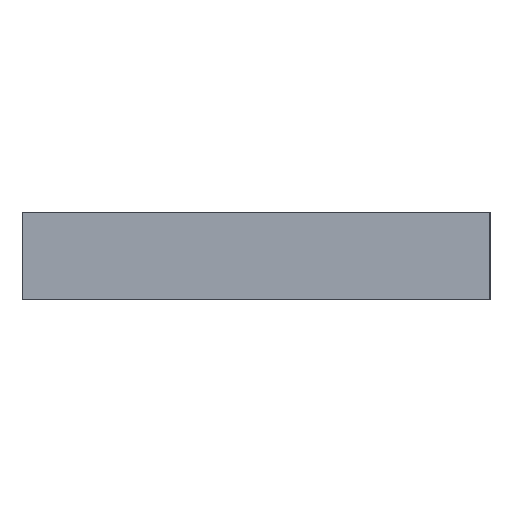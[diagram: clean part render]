
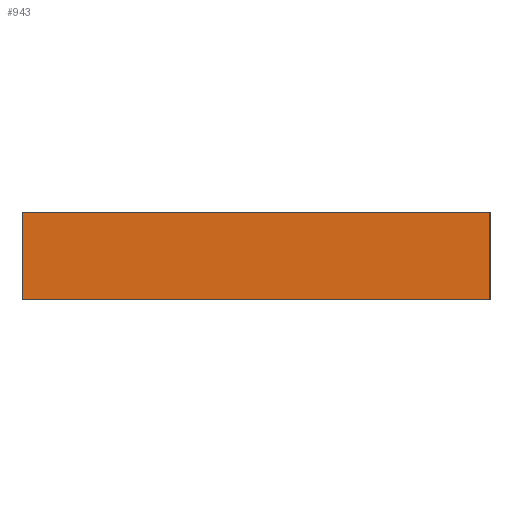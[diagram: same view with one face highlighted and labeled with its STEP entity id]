
A CAD part, left-side view. The second image highlights one B-rep face of the part: STEP entity #943.
In plain terms, the highlighted planar face has unit normal (-1, 0, 0).
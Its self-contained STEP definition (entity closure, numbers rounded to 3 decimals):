
#141=LINE('',#1586,#221);
#142=LINE('',#1589,#222);
#143=LINE('',#1591,#223);
#144=LINE('',#1592,#224);
#221=VECTOR('',#1304,10.);
#222=VECTOR('',#1307,10.);
#223=VECTOR('',#1308,10.);
#224=VECTOR('',#1309,10.);
#311=FACE_OUTER_BOUND('',#357,.T.);
#357=EDGE_LOOP('',(#792,#793,#794,#795));
#512=VERTEX_POINT('',#1579);
#515=VERTEX_POINT('',#1584);
#516=VERTEX_POINT('',#1588);
#517=VERTEX_POINT('',#1590);
#631=EDGE_CURVE('',#512,#515,#141,.T.);
#632=EDGE_CURVE('',#516,#512,#142,.T.);
#633=EDGE_CURVE('',#517,#515,#143,.T.);
#634=EDGE_CURVE('',#516,#517,#144,.T.);
#792=ORIENTED_EDGE('',*,*,#632,.T.);
#793=ORIENTED_EDGE('',*,*,#631,.T.);
#794=ORIENTED_EDGE('',*,*,#633,.F.);
#795=ORIENTED_EDGE('',*,*,#634,.F.);
#899=PLANE('',#1050);
#943=ADVANCED_FACE('',(#311),#899,.T.);
#1050=AXIS2_PLACEMENT_3D('',#1587,#1305,#1306);
#1304=DIRECTION('',(0.,0.,1.));
#1305=DIRECTION('center_axis',(-1.,0.,0.));
#1306=DIRECTION('ref_axis',(0.,-1.,0.));
#1307=DIRECTION('',(0.,-1.,0.));
#1308=DIRECTION('',(0.,-1.,0.));
#1309=DIRECTION('',(0.,0.,1.));
#1579=CARTESIAN_POINT('',(-23.724,1.494,0.));
#1584=CARTESIAN_POINT('',(-23.724,1.494,6.));
#1586=CARTESIAN_POINT('',(-23.724,1.494,0.));
#1587=CARTESIAN_POINT('Origin',(-23.724,33.494,0.));
#1588=CARTESIAN_POINT('',(-23.724,33.494,0.));
#1589=CARTESIAN_POINT('',(-23.724,33.494,0.));
#1590=CARTESIAN_POINT('',(-23.724,33.494,6.));
#1591=CARTESIAN_POINT('',(-23.724,33.494,6.));
#1592=CARTESIAN_POINT('',(-23.724,33.494,0.));
